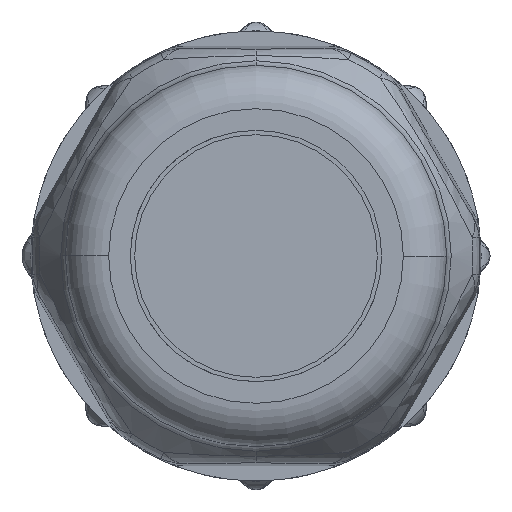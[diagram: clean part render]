
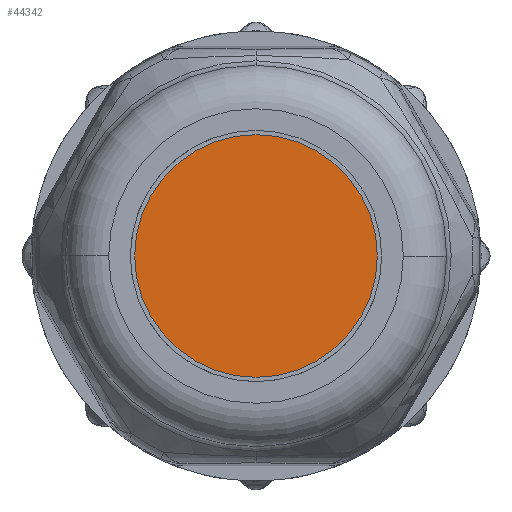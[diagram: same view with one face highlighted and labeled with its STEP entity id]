
A CAD part, left-side view. The second image highlights one B-rep face of the part: STEP entity #44342.
In plain terms, the highlighted planar face has unit normal (-1, 0, 0).
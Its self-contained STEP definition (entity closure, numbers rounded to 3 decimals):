
#12908=CARTESIAN_POINT('',(-24.45,0.,0.));
#12909=DIRECTION('',(1.,0.,0.));
#12910=DIRECTION('',(0.,-1.,0.));
#12911=AXIS2_PLACEMENT_3D('',#12908,#12909,#12910);
#12913=CARTESIAN_POINT('',(-24.45,0.,0.));
#12914=DIRECTION('',(1.,0.,0.));
#12915=DIRECTION('',(0.,1.,0.));
#12916=AXIS2_PLACEMENT_3D('',#12913,#12914,#12915);
#21279=CARTESIAN_POINT('',(-24.45,-8.51,0.));
#21280=CARTESIAN_POINT('',(-24.45,8.51,0.));
#21281=VERTEX_POINT('',#21279);
#21282=VERTEX_POINT('',#21280);
#44332=CARTESIAN_POINT('',(-24.45,0.,0.));
#44333=DIRECTION('',(-1.,0.,0.));
#44334=DIRECTION('',(0.,0.,-1.));
#44335=AXIS2_PLACEMENT_3D('',#44332,#44333,#44334);
#44336=PLANE('',#44335);
#44337=ORIENTED_EDGE('',*,*,#44322,.T.);
#44339=ORIENTED_EDGE('',*,*,#44338,.T.);
#44340=EDGE_LOOP('',(#44337,#44339));
#44341=FACE_OUTER_BOUND('',#44340,.F.);
#44342=ADVANCED_FACE('',(#44341),#44336,.T.);
#12912=CIRCLE('',#12911,8.51);
#12917=CIRCLE('',#12916,8.51);
#44322=EDGE_CURVE('',#21281,#21282,#12912,.T.);
#44338=EDGE_CURVE('',#21282,#21281,#12917,.T.);
